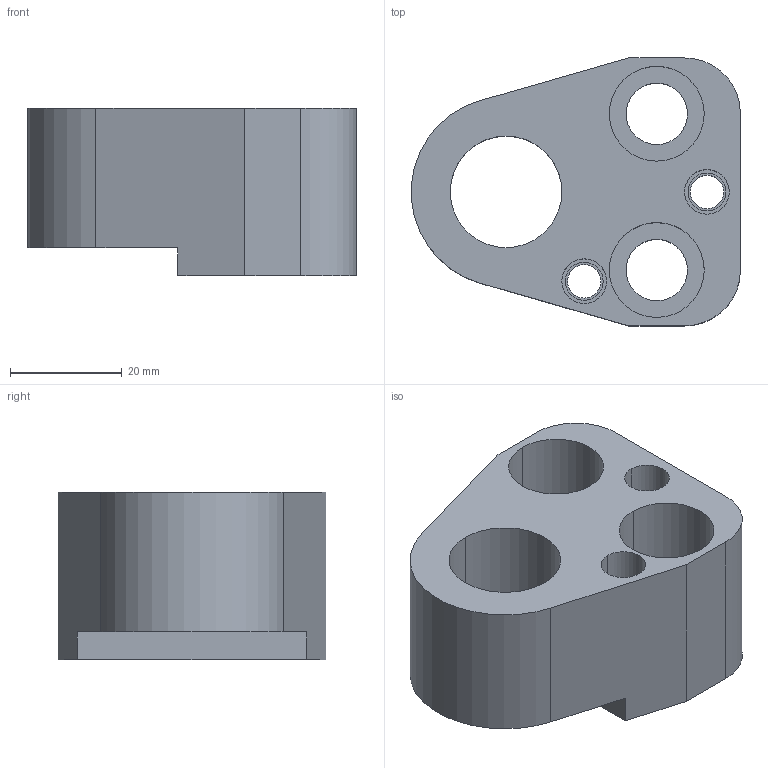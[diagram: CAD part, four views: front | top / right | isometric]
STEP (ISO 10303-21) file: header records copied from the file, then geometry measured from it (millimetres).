
FILE_DESCRIPTION(/* description */ (''),/* implementation_level */ '2;1');
FILE_NAME(/* name */ '3d_hdp-fn20_04042_r00.stp',/* time_stamp */ '2011-01-10T14:14:53+09:00',/* author */ ('MISUMI'),/* organization */ (''),/* preprocessor_version */ 'ST-DEVELOPER v11',/* originating_system */ 'UGS - NX 5.0',/* authorisation */ '');
FILE_SCHEMA (('CONFIG_CONTROL_DESIGN'));
Length unit declared in the file: millimetre
Products named in the file (1): 3d_hdp-fn20_04042_r00
Bounding box: 58.94 x 48 x 30 mm (x, y, z)
Volume: 45349.5 mm3; surface area: 14082.3 mm2
Topology: 1 solids, 1 shells, 42 faces, 104 edges, 69 vertices
Faces by surface type: cylinder 25, plane 15, cone 2
Entity records: 1380 total; most frequent: DIRECTION 242, CARTESIAN_POINT 219, ORIENTED_EDGE 208, EDGE_CURVE 104, AXIS2_PLACEMENT_3D 96, VERTEX_POINT 69, EDGE_LOOP 57, CIRCLE 53
